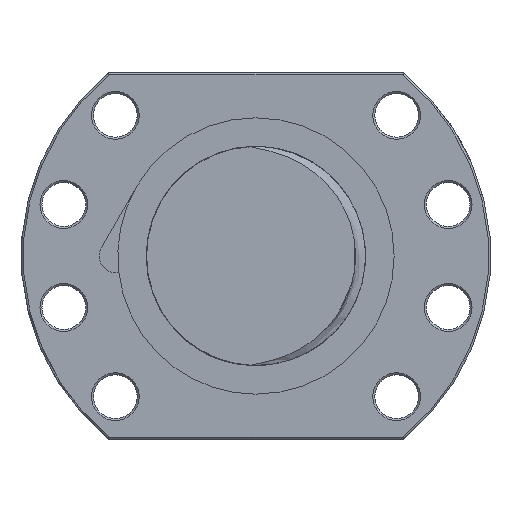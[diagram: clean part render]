
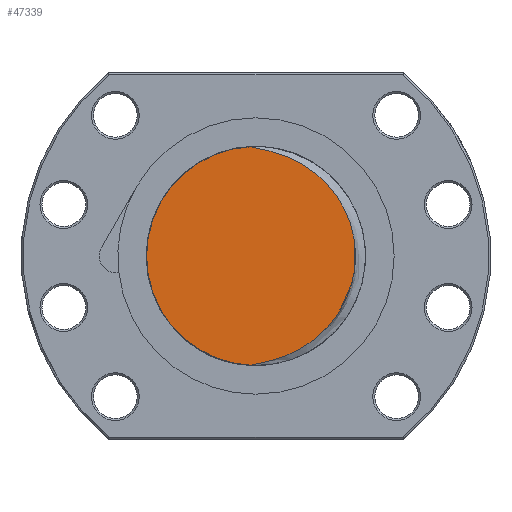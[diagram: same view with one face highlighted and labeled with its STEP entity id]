
A CAD part, left-side view. The second image highlights one B-rep face of the part: STEP entity #47339.
In plain terms, the highlighted planar face has unit normal (-1, 0, 0).
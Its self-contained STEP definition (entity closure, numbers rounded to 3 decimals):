
#11623 = CIRCLE ( 'NONE', #11646, 27.5 ) ;
#11643 = DIRECTION ( 'NONE',  ( 0., 1., 0. ) ) ;
#11644 = DIRECTION ( 'NONE',  ( 1., 0., 0. ) ) ;
#11645 = CARTESIAN_POINT ( 'NONE',  ( -234., 0., 0. ) ) ;
#11646 = AXIS2_PLACEMENT_3D ( 'NONE', #11645, #11644, #11643 ) ;
#11857 = CARTESIAN_POINT ( 'NONE',  ( -234., 1.501, 27.459 ) ) ;
#11912 = CARTESIAN_POINT ( 'NONE',  ( -234., 1.501, -27.459 ) ) ;
#22997 = DIRECTION ( 'NONE',  ( 0., 0., -1. ) ) ;
#22998 = DIRECTION ( 'NONE',  ( 1., 0., 0. ) ) ;
#22999 = CARTESIAN_POINT ( 'NONE',  ( -234., 0., 0. ) ) ;
#23000 = AXIS2_PLACEMENT_3D ( 'NONE', #22999, #22998, #22997 ) ;
#23001 = PLANE ( 'NONE',  #23000 ) ;
#23006 = FACE_OUTER_BOUND ( 'NONE', #47340, .T. ) ;
#23032 = CARTESIAN_POINT ( 'NONE',  ( -234., -23.614, 8.532 ) ) ;
#23033 = CARTESIAN_POINT ( 'NONE',  ( -234., -24.126, 6.863 ) ) ;
#23034 = CARTESIAN_POINT ( 'NONE',  ( -234., -24.342, 6.008 ) ) ;
#23035 = CARTESIAN_POINT ( 'NONE',  ( -234., -24.856, 3.447 ) ) ;
#23036 = CARTESIAN_POINT ( 'NONE',  ( -234., -25.026, 1.724 ) ) ;
#23037 = CARTESIAN_POINT ( 'NONE',  ( -234., -25.024, -0.449 ) ) ;
#23038 = CARTESIAN_POINT ( 'NONE',  ( -234., -25.013, -0.884 ) ) ;
#23039 = CARTESIAN_POINT ( 'NONE',  ( -234., -24.969, -1.757 ) ) ;
#23040 = CARTESIAN_POINT ( 'NONE',  ( -234., -24.936, -2.196 ) ) ;
#23041 = CARTESIAN_POINT ( 'NONE',  ( -234., -24.804, -3.502 ) ) ;
#23042 = CARTESIAN_POINT ( 'NONE',  ( -234., -24.674, -4.362 ) ) ;
#23043 = CARTESIAN_POINT ( 'NONE',  ( -234., -24.158, -6.91 ) ) ;
#23044 = CARTESIAN_POINT ( 'NONE',  ( -234., -23.648, -8.565 ) ) ;
#23045 = CARTESIAN_POINT ( 'NONE',  ( -234., -22.802, -10.581 ) ) ;
#23046 = CARTESIAN_POINT ( 'NONE',  ( -234., -22.622, -10.982 ) ) ;
#23047 = CARTESIAN_POINT ( 'NONE',  ( -234., -22.244, -11.771 ) ) ;
#23048 = CARTESIAN_POINT ( 'NONE',  ( -234., -22.046, -12.159 ) ) ;
#23049 = CARTESIAN_POINT ( 'NONE',  ( -234., -21.426, -13.306 ) ) ;
#23050 = CARTESIAN_POINT ( 'NONE',  ( -234., -20.976, -14.046 ) ) ;
#23051 = CARTESIAN_POINT ( 'NONE',  ( -234., -20.009, -15.478 ) ) ;
#23052 = CARTESIAN_POINT ( 'NONE',  ( -234., -19.49, -16.171 ) ) ;
#23053 = CARTESIAN_POINT ( 'NONE',  ( -234., -18.385, -17.509 ) ) ;
#23054 = CARTESIAN_POINT ( 'NONE',  ( -234., -17.797, -18.156 ) ) ;
#23055 = CARTESIAN_POINT ( 'NONE',  ( -234., -15.935, -20.013 ) ) ;
#23056 = CARTESIAN_POINT ( 'NONE',  ( -234., -14.59, -21.116 ) ) ;
#23057 = CARTESIAN_POINT ( 'NONE',  ( -234., -12.428, -22.581 ) ) ;
#23058 = CARTESIAN_POINT ( 'NONE',  ( -234., -11.681, -23.038 ) ) ;
#23059 = CARTESIAN_POINT ( 'NONE',  ( -234., -10.147, -23.884 ) ) ;
#23060 = CARTESIAN_POINT ( 'NONE',  ( -234., -9.365, -24.271 ) ) ;
#23061 = CARTESIAN_POINT ( 'NONE',  ( -234., -7.772, -24.973 ) ) ;
#23062 = CARTESIAN_POINT ( 'NONE',  ( -234., -6.961, -25.289 ) ) ;
#23063 = CARTESIAN_POINT ( 'NONE',  ( -234., -5.313, -25.858 ) ) ;
#23064 = CARTESIAN_POINT ( 'NONE',  ( -234., -4.475, -26.11 ) ) ;
#23065 = CARTESIAN_POINT ( 'NONE',  ( -234., -2.781, -26.556 ) ) ;
#23066 = CARTESIAN_POINT ( 'NONE',  ( -234., -1.927, -26.749 ) ) ;
#23067 = CARTESIAN_POINT ( 'NONE',  ( -234., -0.641, -27.014 ) ) ;
#23068 = CARTESIAN_POINT ( 'NONE',  ( -234., -0.212, -27.098 ) ) ;
#23069 = CARTESIAN_POINT ( 'NONE',  ( -234., 0.647, -27.269 ) ) ;
#23070 = CARTESIAN_POINT ( 'NONE',  ( -234., 1.077, -27.354 ) ) ;
#23071 = CARTESIAN_POINT ( 'NONE',  ( -234., 1.501, -27.459 ) ) ;
#23072 = B_SPLINE_CURVE_WITH_KNOTS ( 'NONE', 3,
 ( #23071, #23070, #23069, #23068, #23067, #23066, #23065, #23064, #23063, #23062, #23061, #23060, #23059, #23058, #23057, #23056, #23055, #23054, #23053, #23052, #23051, #23050, #23049, #23048, #23047, #23046, #23045, #23044, #23043, #23042, #23041, #23040, #23039, #23038, #23037, #23036, #23035, #23034, #23033, #23032, #23113, #23112, #23111, #23110, #23109, #23108, #23107, #23106, #23105, #23104, #23103, #23102, #23101, #23100, #23099, #23098, #23097, #23096, #23095, #23094, #23093, #23092 ),
 .UNSPECIFIED., .F., .F.,
 ( 4, 2, 2, 2, 2, 2, 2, 2, 2, 2, 2, 2, 2, 2, 2, 2, 2, 2, 2, 2, 2, 2, 2, 2, 2, 2, 2, 2, 2, 2, 4 ),
 ( 0.001, 0.002, 0.004, 0.006, 0.009, 0.012, 0.014, 0.017, 0.022, 0.025, 0.027, 0.03, 0.031, 0.032, 0.038, 0.04, 0.042, 0.043, 0.048, 0.051, 0.053, 0.059, 0.064, 0.066, 0.069, 0.072, 0.074, 0.079, 0.082, 0.083, 0.085 ),
 .UNSPECIFIED. ) ;
#23092 = CARTESIAN_POINT ( 'NONE',  ( -234., 1.501, 27.459 ) ) ;
#23093 = CARTESIAN_POINT ( 'NONE',  ( -234., 1.076, 27.353 ) ) ;
#23094 = CARTESIAN_POINT ( 'NONE',  ( -234., 0.646, 27.268 ) ) ;
#23095 = CARTESIAN_POINT ( 'NONE',  ( -234., -0.213, 27.097 ) ) ;
#23096 = CARTESIAN_POINT ( 'NONE',  ( -234., -0.643, 27.012 ) ) ;
#23097 = CARTESIAN_POINT ( 'NONE',  ( -234., -1.931, 26.748 ) ) ;
#23098 = CARTESIAN_POINT ( 'NONE',  ( -234., -2.786, 26.555 ) ) ;
#23099 = CARTESIAN_POINT ( 'NONE',  ( -234., -5.33, 25.885 ) ) ;
#23100 = CARTESIAN_POINT ( 'NONE',  ( -234., -6.983, 25.321 ) ) ;
#23101 = CARTESIAN_POINT ( 'NONE',  ( -234., -9.383, 24.261 ) ) ;
#23102 = CARTESIAN_POINT ( 'NONE',  ( -234., -10.172, 23.871 ) ) ;
#23103 = CARTESIAN_POINT ( 'NONE',  ( -234., -11.703, 23.026 ) ) ;
#23104 = CARTESIAN_POINT ( 'NONE',  ( -234., -12.447, 22.569 ) ) ;
#23105 = CARTESIAN_POINT ( 'NONE',  ( -234., -13.894, 21.587 ) ) ;
#23106 = CARTESIAN_POINT ( 'NONE',  ( -234., -14.598, 21.059 ) ) ;
#23107 = CARTESIAN_POINT ( 'NONE',  ( -234., -15.944, 19.948 ) ) ;
#23108 = CARTESIAN_POINT ( 'NONE',  ( -234., -16.587, 19.364 ) ) ;
#23109 = CARTESIAN_POINT ( 'NONE',  ( -234., -18.426, 17.527 ) ) ;
#23110 = CARTESIAN_POINT ( 'NONE',  ( -234., -19.532, 16.189 ) ) ;
#23111 = CARTESIAN_POINT ( 'NONE',  ( -234., -21.493, 13.275 ) ) ;
#23112 = CARTESIAN_POINT ( 'NONE',  ( -234., -22.316, 11.747 ) ) ;
#23113 = CARTESIAN_POINT ( 'NONE',  ( -234., -23.319, 9.349 ) ) ;
#46948 = EDGE_CURVE ( 'NONE', #46970, #46966, #11623, .T. ) ;
#46966 = VERTEX_POINT ( 'NONE', #11857 ) ;
#46970 = VERTEX_POINT ( 'NONE', #11912 ) ;
#47339 = ADVANCED_FACE ( 'NONE', ( #23006 ), #23001, .F. ) ;
#47340 = EDGE_LOOP ( 'NONE', ( #47341, #47342 ) ) ;
#47341 = ORIENTED_EDGE ( 'NONE', *, *, #46948, .F. ) ;
#47342 = ORIENTED_EDGE ( 'NONE', *, *, #47343, .T. ) ;
#47343 = EDGE_CURVE ( 'NONE', #46970, #46966, #23072, .T. ) ;
